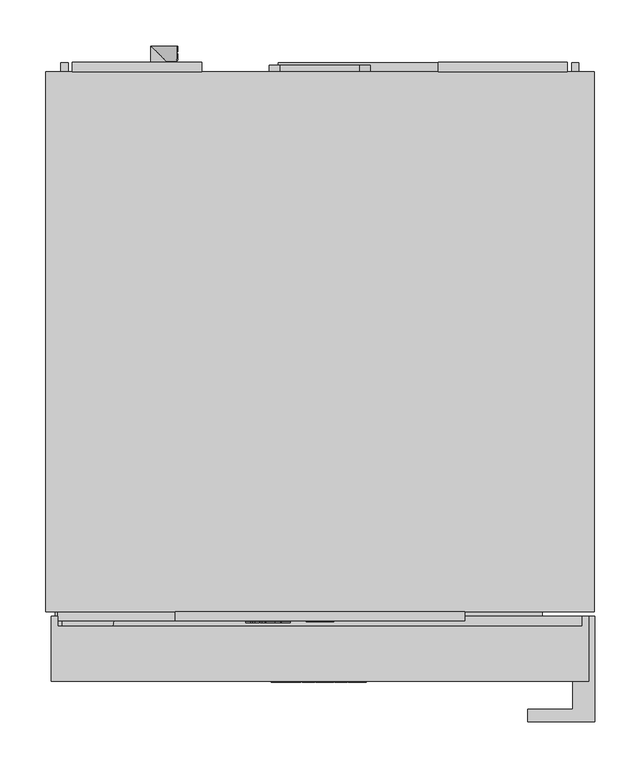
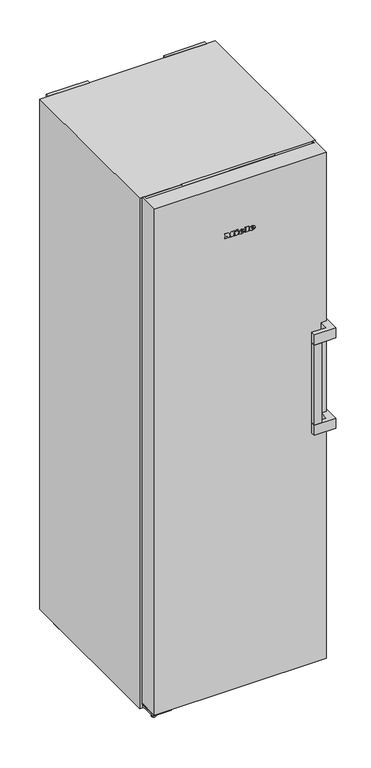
"""IFC4 building model written with IfcOpenShell, lengths in millimetres: proxy geometry, 12430770_AUS_FNS4782E_BST : 37478253_AUS_12430770_FNS4782E_BST."""

from ifc_helpers import new_model, si_unit, point, frame, frame_2d, origin, origin_with_axes, place, context, project, spatial, polyline, circle_curve, ellipse_curve, trimmed, segment, composite_curve, outline, extrude, faceted_brep, source, transform, mapped, element, save
from ifc_brep_helpers import plane_surface, cylinder_surface, revolved_surface, extruded_surface, advanced_brep


def specialty_equipment_5bcbbda8(model_context):
    return source(origin(), model_context, "Body", "SolidModel", [
        extrude(outline(polyline([(15.0, -609.5), (-15.0, -609.5), (-15.0, -606.5), (15.0, -606.5), (15.0, -609.5)])), frame((0.0, 0.0, 1812.0), z_axis=(0.0, 0.0, 1.0), x_axis=(1.0, 0.0, 0.0)), (0.0, 0.0, 1.0), 28.0),
        extrude(outline(polyline([(1845.5, 105.0), (1845.5, -105.0), (1806.5, -105.0), (1806.5, 105.0), (1845.5, 105.0)]), holes=[polyline([(1840.0, -15.0), (1840.0, 15.0), (1812.0, 15.0), (1812.0, -15.0), (1840.0, -15.0)])]), frame((0.0, -608.5, 0.0), z_axis=(0.0, 1.0, 0.0), x_axis=(0.0, 0.0, 1.0)), (0.0, 0.0, 1.0), 2.0),
        faceted_brep([(157.5, -598.5, 1802.0), (157.5, -608.5, 1802.0), (-157.5, -608.5, 1802.0), (-157.5, -598.5, 1802.0), (157.5, -598.5, 1850.0), (-157.5, -598.5, 1850.0), (-157.5, -608.5, 1850.0), (157.5, -608.5, 1850.0), (-105.0, -608.5, 1845.5), (105.0, -608.5, 1845.5), (105.0, -608.5, 1806.5), (-105.0, -608.5, 1806.5), (105.0, -606.5, 1845.5), (-105.0, -606.5, 1845.5), (-105.0, -606.5, 1806.5), (105.0, -606.5, 1806.5)], [[[0, 1, 2, 3]], [[4, 5, 6, 7]], [[0, 3, 5, 4]], [[3, 2, 6, 5]], [[2, 1, 7, 6], [8, 9, 10, 11]], [[1, 0, 4, 7]], [[12, 13, 14, 15]], [[13, 12, 9, 8]], [[14, 13, 8, 11]], [[15, 14, 11, 10]], [[12, 15, 10, 9]]]),
        advanced_brep(
        [(39.0804776, -675.5, 1668.7956125), (39.0804776, -675.5, 1670.5126125), (50.4534776, -675.5, 1670.5126125), (30.6654776, -675.5, 1670.5126125), (35.3404776, -675.5, 1664.7666125), (50.1644776, -675.5, 1668.7956125), (45.0304776, -675.5, 1668.7956125), (40.9844776, -675.5, 1666.8916125), (39.0804776, -675.5, 1672.6886125), (39.0804776, -675.5, 1674.5416125), (41.9874776, -675.5, 1674.5416125), (41.9874776, -675.5, 1672.6886125), (39.0804776, -674.5, 1668.7956125), (40.9844776, -674.5, 1666.8916125), (45.0304776, -674.5, 1668.7956125), (50.1644776, -674.5, 1668.7956125), (35.3404776, -674.5, 1664.7666125), (30.6654776, -674.5, 1670.5126125), (50.4534776, -674.5, 1670.5126125), (39.0804776, -674.5, 1670.5126125), (39.0804776, -674.5, 1672.6886125), (41.9874776, -674.5, 1672.6886125), (41.9874776, -674.5, 1674.5416125), (39.0804776, -674.5, 1674.5416125)],
        [
            (0, 1),
            (1, 2),
            (2, 3, ellipse_curve(frame((40.5594776, -675.5, 1670.5126125), z_axis=(0.0, -1.0, 0.0), x_axis=(-1.0, 0.0, 0.0)), 9.894, 8.177)),
            (3, 4, circle_curve(frame((37.2445704, -675.5, 1671.0906125), z_axis=(0.0, -1.0, 0.0), x_axis=(0.0, 0.0, -1.0)), 6.6044337)),
            (4, 5, circle_curve(frame((40.361414, -675.5, 1675.5786125), z_axis=(0.0, -1.0, 0.0), x_axis=(0.0, 0.0, -1.0)), 11.9209541)),
            (5, 6),
            (6, 7, circle_curve(frame((41.8154776, -675.5, 1670.3766125), z_axis=(0.0, 1.0, 0.0), x_axis=(0.0, 0.0, -1.0)), 3.5827065)),
            (7, 0, circle_curve(frame((40.9844776, -675.5, 1668.7956125), z_axis=(0.0, 1.0, 0.0), x_axis=(0.0, 0.0, -1.0)), 1.904)),
            (8, 9),
            (9, 10, circle_curve(frame((40.5339776, -675.5, 1674.5416125), z_axis=(0.0, 1.0, 0.0), x_axis=(0.0, 0.0, -1.0)), 1.4535)),
            (10, 11),
            (11, 8),
            (12, 13, circle_curve(frame((40.9844776, -674.5, 1668.7956125), z_axis=(0.0, -1.0, 0.0), x_axis=(0.0, 0.0, -1.0)), 1.904)),
            (13, 14, circle_curve(frame((41.8154776, -674.5, 1670.3766125), z_axis=(0.0, -1.0, 0.0), x_axis=(0.0, 0.0, -1.0)), 3.5827065)),
            (14, 15),
            (15, 16, circle_curve(frame((40.361414, -674.5, 1675.5786125), z_axis=(0.0, 1.0, 0.0), x_axis=(0.0, 0.0, -1.0)), 11.9209541)),
            (16, 17, circle_curve(frame((37.2445704, -674.5, 1671.0906125), z_axis=(0.0, 1.0, 0.0), x_axis=(0.0, 0.0, -1.0)), 6.6044337)),
            (17, 18, ellipse_curve(frame((40.5594776, -674.5, 1670.5126125), z_axis=(0.0, 1.0, 0.0), x_axis=(-1.0, 0.0, 0.0)), 9.894, 8.177)),
            (18, 19),
            (19, 12),
            (20, 21),
            (21, 22),
            (22, 23, circle_curve(frame((40.5339776, -674.5, 1674.5416125), z_axis=(0.0, -1.0, 0.0), x_axis=(0.0, 0.0, -1.0)), 1.4535)),
            (23, 20),
            (0, 12),
            (19, 1),
            (18, 2),
            (5, 15),
            (14, 6),
            (17, 3),
            (13, 7),
            (16, 4),
            (8, 20),
            (23, 9),
            (22, 10),
            (21, 11),
        ],
        [
            plane_surface(frame((39.0804776, -675.5, 1670.5126125), z_axis=(0.0, -1.0, 0.0), x_axis=(0.0, 0.0, 1.0))),
            plane_surface(frame((39.0804776, -674.5, 1670.5126125), z_axis=(0.0, 1.0, 0.0), x_axis=(0.0, 0.0, -1.0))),
            plane_surface(frame((39.0804776, -675.5, 1668.7956125), z_axis=(1.0, 0.0, 0.0), x_axis=(0.0, 1.0, 0.0))),
            plane_surface(frame((39.0804776, -675.5, 1670.5126125), z_axis=(0.0, 0.0, -1.0), x_axis=(0.0, 1.0, 0.0))),
            plane_surface(frame((50.1644776, -675.5, 1668.7956125), z_axis=(0.0, 0.0, 1.0), x_axis=(0.0, 1.0, 0.0))),
            extruded_surface(trimmed(ellipse_curve(frame((40.5594776, -673.5, 1670.5126125), z_axis=(0.0, -1.0, 0.0), x_axis=(-1.0, 0.0, 0.0)), 9.894, 8.177), [point((50.4534776, -673.5, 1670.5126125))], [point((30.6654776, -673.5, 1670.5126125))], True, "CARTESIAN"), (0.0, -1.0, 0.0), 1.0),
            revolved_surface(polyline([(41.8154776, -674.5, 1666.7939059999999), (41.8154776, -675.5, 1666.7939059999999)]), (41.8154776, -674.5, 1670.3766125), (0.0, 1.0, 0.0)),
            revolved_surface(polyline([(40.9844776, -674.5, 1666.8916125), (40.9844776, -675.5, 1666.8916125)]), (40.9844776, -674.5, 1668.7956125), (0.0, 1.0, 0.0)),
            cylinder_surface(frame((37.2445704, -674.5, 1671.0906125), z_axis=(0.0, -1.0, 0.0), x_axis=(0.0, 0.0, -1.0)), 6.6044337),
            cylinder_surface(frame((40.361414, -674.5, 1675.5786125), z_axis=(0.0, -1.0, 0.0), x_axis=(0.0, 0.0, -1.0)), 11.9209541),
            plane_surface(frame((39.0804776, -675.5, 1672.6886125), z_axis=(1.0, 0.0, 0.0), x_axis=(0.0, 1.0, 0.0))),
            revolved_surface(polyline([(40.5339776, -674.5, 1673.0881124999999), (40.5339776, -675.5, 1673.0881124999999)]), (40.5339776, -674.5, 1674.5416125), (0.0, 1.0, 0.0)),
            plane_surface(frame((41.9874776, -675.5, 1674.5416125), z_axis=(-1.0, 0.0, 0.0), x_axis=(0.0, 1.0, 0.0))),
            plane_surface(frame((41.9874776, -675.5, 1672.6886125), z_axis=(0.0, 0.0, 1.0), x_axis=(0.0, 1.0, 0.0))),
        ],
        [
            (0, [[1, 2, 3, 4, 5, 6, 7, 8], [9, 10, 11, 12]]),
            (1, [[13, 14, 15, 16, 17, 18, 19, 20], [21, 22, 23, 24]]),
            (2, [[-1, 25, -20, 26]]),
            (3, [[-2, -26, -19, 27]]),
            (4, [[-6, 28, -15, 29]]),
            (5, [[-3, -27, -18, 30]]),
            (6, [[-7, -29, -14, 31]]),
            (7, [[-8, -31, -13, -25]]),
            (8, [[-4, -30, -17, 32]]),
            (9, [[-5, -32, -16, -28]]),
            (10, [[-9, 33, -24, 34]]),
            (11, [[-10, -34, -23, 35]]),
            (12, [[-11, -35, -22, 36]]),
            (13, [[-12, -36, -21, -33]]),
        ],
    ),
        advanced_brep(
        [(3.6014776, -675.5, 1668.7956125), (3.6014776, -675.5, 1670.5126125), (14.9744776, -675.5, 1670.5126125), (-4.8135224, -675.5, 1670.5126125), (-0.1385224, -675.5, 1664.7666125), (14.6854776, -675.5, 1668.7956125), (9.5514776, -675.5, 1668.7956125), (5.5054776, -675.5, 1666.8916125), (3.6014776, -675.5, 1672.6886125), (3.6014776, -675.5, 1674.5416125), (6.5084776, -675.5, 1674.5416125), (6.5084776, -675.5, 1672.6886125), (3.6014776, -674.5, 1668.7956125), (5.5054776, -674.5, 1666.8916125), (9.5514776, -674.5, 1668.7956125), (14.6854776, -674.5, 1668.7956125), (-0.1385224, -674.5, 1664.7666125), (-4.8135224, -674.5, 1670.5126125), (14.9744776, -674.5, 1670.5126125), (3.6014776, -674.5, 1670.5126125), (3.6014776, -674.5, 1672.6886125), (6.5084776, -674.5, 1672.6886125), (6.5084776, -674.5, 1674.5416125), (3.6014776, -674.5, 1674.5416125)],
        [
            (0, 1),
            (1, 2),
            (2, 3, ellipse_curve(frame((5.0804776, -675.5, 1670.5126125), z_axis=(0.0, -1.0, 0.0), x_axis=(-1.0, 0.0, 0.0)), 9.894, 8.177)),
            (3, 4, circle_curve(frame((1.7655704, -675.5, 1671.0906125), z_axis=(0.0, -1.0, 0.0), x_axis=(0.0, 0.0, -1.0)), 6.6044337)),
            (4, 5, circle_curve(frame((4.882414, -675.5, 1675.5786125), z_axis=(0.0, -1.0, 0.0), x_axis=(0.0, 0.0, -1.0)), 11.9209541)),
            (5, 6),
            (6, 7, circle_curve(frame((6.3364776, -675.5, 1670.3766125), z_axis=(0.0, 1.0, 0.0), x_axis=(0.0, 0.0, -1.0)), 3.5827065)),
            (7, 0, circle_curve(frame((5.5054776, -675.5, 1668.7956125), z_axis=(0.0, 1.0, 0.0), x_axis=(0.0, 0.0, -1.0)), 1.904)),
            (8, 9),
            (9, 10, circle_curve(frame((5.0549776, -675.5, 1674.5416125), z_axis=(0.0, 1.0, 0.0), x_axis=(0.0, 0.0, -1.0)), 1.4535)),
            (10, 11),
            (11, 8),
            (12, 13, circle_curve(frame((5.5054776, -674.5, 1668.7956125), z_axis=(0.0, -1.0, 0.0), x_axis=(0.0, 0.0, -1.0)), 1.904)),
            (13, 14, circle_curve(frame((6.3364776, -674.5, 1670.3766125), z_axis=(0.0, -1.0, 0.0), x_axis=(0.0, 0.0, -1.0)), 3.5827065)),
            (14, 15),
            (15, 16, circle_curve(frame((4.882414, -674.5, 1675.5786125), z_axis=(0.0, 1.0, 0.0), x_axis=(0.0, 0.0, -1.0)), 11.9209541)),
            (16, 17, circle_curve(frame((1.7655704, -674.5, 1671.0906125), z_axis=(0.0, 1.0, 0.0), x_axis=(0.0, 0.0, -1.0)), 6.6044337)),
            (17, 18, ellipse_curve(frame((5.0804776, -674.5, 1670.5126125), z_axis=(0.0, 1.0, 0.0), x_axis=(-1.0, 0.0, 0.0)), 9.894, 8.177)),
            (18, 19),
            (19, 12),
            (20, 21),
            (21, 22),
            (22, 23, circle_curve(frame((5.0549776, -674.5, 1674.5416125), z_axis=(0.0, -1.0, 0.0), x_axis=(0.0, 0.0, -1.0)), 1.4535)),
            (23, 20),
            (0, 12),
            (19, 1),
            (18, 2),
            (5, 15),
            (14, 6),
            (17, 3),
            (13, 7),
            (16, 4),
            (8, 20),
            (23, 9),
            (22, 10),
            (21, 11),
        ],
        [
            plane_surface(frame((3.6014776, -675.5, 1670.5126125), z_axis=(0.0, -1.0, 0.0), x_axis=(0.0, 0.0, 1.0))),
            plane_surface(frame((3.6014776, -674.5, 1670.5126125), z_axis=(0.0, 1.0, 0.0), x_axis=(0.0, 0.0, -1.0))),
            plane_surface(frame((3.6014776, -675.5, 1668.7956125), z_axis=(1.0, 0.0, 0.0), x_axis=(0.0, 1.0, 0.0))),
            plane_surface(frame((3.6014776, -675.5, 1670.5126125), z_axis=(0.0, 0.0, -1.0), x_axis=(0.0, 1.0, 0.0))),
            plane_surface(frame((14.6854776, -675.5, 1668.7956125), z_axis=(0.0, 0.0, 1.0), x_axis=(0.0, 1.0, 0.0))),
            extruded_surface(trimmed(ellipse_curve(frame((5.0804776, -673.5, 1670.5126125), z_axis=(0.0, -1.0, 0.0), x_axis=(-1.0, 0.0, 0.0)), 9.894, 8.177), [point((14.9744776, -673.5, 1670.5126125))], [point((-4.8135224, -673.5, 1670.5126125))], True, "CARTESIAN"), (0.0, -1.0, 0.0), 1.0),
            revolved_surface(polyline([(6.3364776, -674.5, 1666.7939059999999), (6.3364776, -675.5, 1666.7939059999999)]), (6.3364776, -674.5, 1670.3766125), (0.0, 1.0, 0.0)),
            revolved_surface(polyline([(5.5054776, -674.5, 1666.8916125), (5.5054776, -675.5, 1666.8916125)]), (5.5054776, -674.5, 1668.7956125), (0.0, 1.0, 0.0)),
            cylinder_surface(frame((1.7655704, -674.5, 1671.0906125), z_axis=(0.0, -1.0, 0.0), x_axis=(0.0, 0.0, -1.0)), 6.6044337),
            cylinder_surface(frame((4.882414, -674.5, 1675.5786125), z_axis=(0.0, -1.0, 0.0), x_axis=(0.0, 0.0, -1.0)), 11.9209541),
            plane_surface(frame((3.6014776, -675.5, 1672.6886125), z_axis=(1.0, 0.0, 0.0), x_axis=(0.0, 1.0, 0.0))),
            revolved_surface(polyline([(5.0549776, -674.5, 1673.0881124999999), (5.0549776, -675.5, 1673.0881124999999)]), (5.0549776, -674.5, 1674.5416125), (0.0, 1.0, 0.0)),
            plane_surface(frame((6.5084776, -675.5, 1674.5416125), z_axis=(-1.0, 0.0, 0.0), x_axis=(0.0, 1.0, 0.0))),
            plane_surface(frame((6.5084776, -675.5, 1672.6886125), z_axis=(0.0, 0.0, 1.0), x_axis=(0.0, 1.0, 0.0))),
        ],
        [
            (0, [[1, 2, 3, 4, 5, 6, 7, 8], [9, 10, 11, 12]]),
            (1, [[13, 14, 15, 16, 17, 18, 19, 20], [21, 22, 23, 24]]),
            (2, [[-1, 25, -20, 26]]),
            (3, [[-2, -26, -19, 27]]),
            (4, [[-6, 28, -15, 29]]),
            (5, [[-3, -27, -18, 30]]),
            (6, [[-7, -29, -14, 31]]),
            (7, [[-8, -31, -13, -25]]),
            (8, [[-4, -30, -17, 32]]),
            (9, [[-5, -32, -16, -28]]),
            (10, [[-9, 33, -24, 34]]),
            (11, [[-10, -34, -23, 35]]),
            (12, [[-11, -35, -22, 36]]),
            (13, [[-12, -36, -21, -33]]),
        ],
    ),
        extrude(outline(polyline([(1680.7636125, -14.9795224), (1678.0096125, -13.6875224), (1680.6956125, -7.9245224), (1683.4496125, -9.1995224), (1680.7636125, -14.9795224)])), frame((0.0, -675.5, 0.0), z_axis=(0.0, 1.0, 0.0), x_axis=(0.0, 0.0, 1.0)), (0.0, 0.0, 1.0), 1.0),
        extrude(outline(polyline([(1677.6356125, -19.1785224), (1674.5926125, -19.1785224), (1674.5926125, -17.1555224), (1667.6226125, -17.1555224), (1667.6226125, -19.1785224), (1664.7666125, -19.1785224), (1664.7666125, -5.7655224), (1667.6226125, -5.7655224), (1667.6226125, -7.7375224), (1677.6356125, -7.7375224), (1677.6356125, -19.1785224)])), frame((0.0, -675.5, 0.0), z_axis=(0.0, 1.0, 0.0), x_axis=(0.0, 0.0, 1.0)), (0.0, 0.0, 1.0), 1.0),
        extrude(outline(polyline([(1678.9956125, 15.9264776), (1678.9956125, 17.9664776), (1667.6226125, 17.9664776), (1667.6226125, 15.9264776), (1664.7666125, 15.9264776), (1664.7666125, 29.7134776), (1667.6226125, 29.7134776), (1667.6226125, 27.6224776), (1681.7666125, 27.6224776), (1681.7666125, 15.9264776), (1678.9956125, 15.9264776)])), frame((0.0, -675.5, 0.0), z_axis=(0.0, 1.0, 0.0), x_axis=(0.0, 0.0, 1.0)), (0.0, 0.0, 1.0), 1.0),
        extrude(outline(polyline([(1678.9956125, -53.0595224), (1678.9956125, -51.0025224), (1667.6226125, -51.0025224), (1667.6226125, -53.0595224), (1664.7666125, -53.0595224), (1664.7666125, -45.5795224), (1667.6226125, -45.5795224), (1667.6226125, -47.6195224), (1674.7967372, -47.6195224), (1664.7666125, -40.0205224), (1675.2068348, -32.3875224), (1667.6226125, -32.3875224), (1667.6226125, -34.4785224), (1664.7666125, -34.4785224), (1664.7666125, -20.9125224), (1667.6226125, -20.9125224), (1667.6226125, -23.0715224), (1678.9956125, -23.0715224), (1678.9956125, -20.9125224), (1681.7666125, -20.9125224), (1681.7666125, -31.2655224), (1675.3916125, -36.2295224), (1681.7666125, -41.2105224), (1681.7666125, -53.0595224), (1678.9956125, -53.0595224)])), frame((0.0, -675.5, 0.0), z_axis=(0.0, 1.0, 0.0), x_axis=(0.0, 0.0, 1.0)), (0.0, 0.0, 1.0), 1.0),
        advanced_brep(
        [(-37.64, -610.5, 1828.896), (-37.64, -610.5, 1829.704), (-32.288, -610.5, 1829.704), (-41.6, -610.5, 1829.704), (-39.4, -610.5, 1827.0), (-32.424, -610.5, 1828.896), (-34.84, -610.5, 1828.896), (-36.744, -610.5, 1828.0), (-37.64, -610.5, 1830.728), (-37.64, -610.5, 1831.6), (-36.272, -610.5, 1831.6), (-36.272, -610.5, 1830.728), (-37.64, -609.5, 1828.896), (-36.744, -609.5, 1828.0), (-34.84, -609.5, 1828.896), (-32.424, -609.5, 1828.896), (-39.4, -609.5, 1827.0), (-41.6, -609.5, 1829.704), (-32.288, -609.5, 1829.704), (-37.64, -609.5, 1829.704), (-37.64, -609.5, 1830.728), (-36.272, -609.5, 1830.728), (-36.272, -609.5, 1831.6), (-37.64, -609.5, 1831.6)],
        [
            (0, 1),
            (1, 2),
            (2, 3, ellipse_curve(frame((-36.944, -610.5, 1829.704), z_axis=(0.0, -1.0, 0.0), x_axis=(-1.0, 0.0, 0.0)), 4.656, 3.848)),
            (3, 4, circle_curve(frame((-38.5039564, -610.5, 1829.976), z_axis=(0.0, -1.0, 0.0), x_axis=(0.0, 0.0, -1.0)), 3.1079688)),
            (4, 5, circle_curve(frame((-37.0372064, -610.5, 1832.088), z_axis=(0.0, -1.0, 0.0), x_axis=(0.0, 0.0, -1.0)), 5.6098607)),
            (5, 6),
            (6, 7, circle_curve(frame((-36.3529412, -610.5, 1829.64), z_axis=(0.0, 1.0, 0.0), x_axis=(0.0, 0.0, -1.0)), 1.6859795)),
            (7, 0, circle_curve(frame((-36.744, -610.5, 1828.896), z_axis=(0.0, 1.0, 0.0), x_axis=(0.0, 0.0, -1.0)), 0.896)),
            (8, 9),
            (9, 10, circle_curve(frame((-36.956, -610.5, 1831.6), z_axis=(0.0, 1.0, 0.0), x_axis=(0.0, 0.0, -1.0)), 0.684)),
            (10, 11),
            (11, 8),
            (12, 13, circle_curve(frame((-36.744, -609.5, 1828.896), z_axis=(0.0, -1.0, 0.0), x_axis=(0.0, 0.0, -1.0)), 0.896)),
            (13, 14, circle_curve(frame((-36.3529412, -609.5, 1829.64), z_axis=(0.0, -1.0, 0.0), x_axis=(0.0, 0.0, -1.0)), 1.6859795)),
            (14, 15),
            (15, 16, circle_curve(frame((-37.0372064, -609.5, 1832.088), z_axis=(0.0, 1.0, 0.0), x_axis=(0.0, 0.0, -1.0)), 5.6098607)),
            (16, 17, circle_curve(frame((-38.5039564, -609.5, 1829.976), z_axis=(0.0, 1.0, 0.0), x_axis=(0.0, 0.0, -1.0)), 3.1079688)),
            (17, 18, ellipse_curve(frame((-36.944, -609.5, 1829.704), z_axis=(0.0, 1.0, 0.0), x_axis=(-1.0, 0.0, 0.0)), 4.656, 3.848)),
            (18, 19),
            (19, 12),
            (20, 21),
            (21, 22),
            (22, 23, circle_curve(frame((-36.956, -609.5, 1831.6), z_axis=(0.0, -1.0, 0.0), x_axis=(0.0, 0.0, -1.0)), 0.684)),
            (23, 20),
            (0, 12),
            (19, 1),
            (18, 2),
            (5, 15),
            (14, 6),
            (17, 3),
            (13, 7),
            (16, 4),
            (8, 20),
            (23, 9),
            (22, 10),
            (21, 11),
        ],
        [
            plane_surface(frame((-37.64, -610.5, 1829.704), z_axis=(0.0, -1.0, 0.0), x_axis=(0.0, 0.0, 1.0))),
            plane_surface(frame((-37.64, -609.5, 1829.704), z_axis=(0.0, 1.0, 0.0), x_axis=(0.0, 0.0, -1.0))),
            plane_surface(frame((-37.64, -610.5, 1828.896), z_axis=(1.0, 0.0, 0.0), x_axis=(0.0, 1.0, 0.0))),
            plane_surface(frame((-37.64, -610.5, 1829.704), z_axis=(0.0, 0.0, -1.0), x_axis=(0.0, 1.0, 0.0))),
            plane_surface(frame((-32.424, -610.5, 1828.896), z_axis=(0.0, 0.0, 1.0), x_axis=(0.0, 1.0, 0.0))),
            extruded_surface(trimmed(ellipse_curve(frame((-36.944, -608.5, 1829.704), z_axis=(0.0, -1.0, 0.0), x_axis=(-1.0, 0.0, 0.0)), 4.656, 3.848), [point((-32.288, -608.5, 1829.704))], [point((-41.6, -608.5, 1829.704))], True, "CARTESIAN"), (0.0, -1.0, 0.0), 1.0),
            revolved_surface(polyline([(-36.3529412, -609.5, 1827.9540205), (-36.3529412, -610.5, 1827.9540205)]), (-36.3529412, -609.5, 1829.64), (0.0, 1.0, 0.0)),
            revolved_surface(polyline([(-36.744, -609.5, 1828.0), (-36.744, -610.5, 1828.0)]), (-36.744, -609.5, 1828.896), (0.0, 1.0, 0.0)),
            cylinder_surface(frame((-38.5039564, -609.5, 1829.976), z_axis=(0.0, -1.0, 0.0), x_axis=(0.0, 0.0, -1.0)), 3.1079688),
            cylinder_surface(frame((-37.0372064, -609.5, 1832.088), z_axis=(0.0, -1.0, 0.0), x_axis=(0.0, 0.0, -1.0)), 5.6098607),
            plane_surface(frame((-37.64, -610.5, 1830.728), z_axis=(1.0, 0.0, 0.0), x_axis=(0.0, 1.0, 0.0))),
            revolved_surface(polyline([(-36.956, -609.5, 1830.916), (-36.956, -610.5, 1830.916)]), (-36.956, -609.5, 1831.6), (0.0, 1.0, 0.0)),
            plane_surface(frame((-36.272, -610.5, 1831.6), z_axis=(-1.0, 0.0, 0.0), x_axis=(0.0, 1.0, 0.0))),
            plane_surface(frame((-36.272, -610.5, 1830.728), z_axis=(0.0, 0.0, 1.0), x_axis=(0.0, 1.0, 0.0))),
        ],
        [
            (0, [[1, 2, 3, 4, 5, 6, 7, 8], [9, 10, 11, 12]]),
            (1, [[13, 14, 15, 16, 17, 18, 19, 20], [21, 22, 23, 24]]),
            (2, [[-1, 25, -20, 26]]),
            (3, [[-2, -26, -19, 27]]),
            (4, [[-6, 28, -15, 29]]),
            (5, [[-3, -27, -18, 30]]),
            (6, [[-7, -29, -14, 31]]),
            (7, [[-8, -31, -13, -25]]),
            (8, [[-4, -30, -17, 32]]),
            (9, [[-5, -32, -16, -28]]),
            (10, [[-9, 33, -24, 34]]),
            (11, [[-10, -34, -23, 35]]),
            (12, [[-11, -35, -22, 36]]),
            (13, [[-12, -36, -21, -33]]),
        ],
    ),
        advanced_brep(
        [(-54.336, -610.5, 1828.896), (-54.336, -610.5, 1829.704), (-48.984, -610.5, 1829.704), (-58.296, -610.5, 1829.704), (-56.096, -610.5, 1827.0), (-49.12, -610.5, 1828.896), (-51.536, -610.5, 1828.896), (-53.44, -610.5, 1828.0), (-54.336, -610.5, 1830.728), (-54.336, -610.5, 1831.6), (-52.968, -610.5, 1831.6), (-52.968, -610.5, 1830.728), (-54.336, -609.5, 1828.896), (-53.44, -609.5, 1828.0), (-51.536, -609.5, 1828.896), (-49.12, -609.5, 1828.896), (-56.096, -609.5, 1827.0), (-58.296, -609.5, 1829.704), (-48.984, -609.5, 1829.704), (-54.336, -609.5, 1829.704), (-54.336, -609.5, 1830.728), (-52.968, -609.5, 1830.728), (-52.968, -609.5, 1831.6), (-54.336, -609.5, 1831.6)],
        [
            (0, 1),
            (1, 2),
            (2, 3, ellipse_curve(frame((-53.64, -610.5, 1829.704), z_axis=(0.0, -1.0, 0.0), x_axis=(-1.0, 0.0, 0.0)), 4.656, 3.848)),
            (3, 4, circle_curve(frame((-55.1999564, -610.5, 1829.976), z_axis=(0.0, -1.0, 0.0), x_axis=(0.0, 0.0, -1.0)), 3.1079688)),
            (4, 5, circle_curve(frame((-53.7332064, -610.5, 1832.088), z_axis=(0.0, -1.0, 0.0), x_axis=(0.0, 0.0, -1.0)), 5.6098607)),
            (5, 6),
            (6, 7, circle_curve(frame((-53.0489412, -610.5, 1829.64), z_axis=(0.0, 1.0, 0.0), x_axis=(0.0, 0.0, -1.0)), 1.6859795)),
            (7, 0, circle_curve(frame((-53.44, -610.5, 1828.896), z_axis=(0.0, 1.0, 0.0), x_axis=(0.0, 0.0, -1.0)), 0.896)),
            (8, 9),
            (9, 10, circle_curve(frame((-53.652, -610.5, 1831.6), z_axis=(0.0, 1.0, 0.0), x_axis=(0.0, 0.0, -1.0)), 0.684)),
            (10, 11),
            (11, 8),
            (12, 13, circle_curve(frame((-53.44, -609.5, 1828.896), z_axis=(0.0, -1.0, 0.0), x_axis=(0.0, 0.0, -1.0)), 0.896)),
            (13, 14, circle_curve(frame((-53.0489412, -609.5, 1829.64), z_axis=(0.0, -1.0, 0.0), x_axis=(0.0, 0.0, -1.0)), 1.6859795)),
            (14, 15),
            (15, 16, circle_curve(frame((-53.7332064, -609.5, 1832.088), z_axis=(0.0, 1.0, 0.0), x_axis=(0.0, 0.0, -1.0)), 5.6098607)),
            (16, 17, circle_curve(frame((-55.1999564, -609.5, 1829.976), z_axis=(0.0, 1.0, 0.0), x_axis=(0.0, 0.0, -1.0)), 3.1079688)),
            (17, 18, ellipse_curve(frame((-53.64, -609.5, 1829.704), z_axis=(0.0, 1.0, 0.0), x_axis=(-1.0, 0.0, 0.0)), 4.656, 3.848)),
            (18, 19),
            (19, 12),
            (20, 21),
            (21, 22),
            (22, 23, circle_curve(frame((-53.652, -609.5, 1831.6), z_axis=(0.0, -1.0, 0.0), x_axis=(0.0, 0.0, -1.0)), 0.684)),
            (23, 20),
            (0, 12),
            (19, 1),
            (18, 2),
            (5, 15),
            (14, 6),
            (17, 3),
            (13, 7),
            (16, 4),
            (8, 20),
            (23, 9),
            (22, 10),
            (21, 11),
        ],
        [
            plane_surface(frame((-54.336, -610.5, 1829.704), z_axis=(0.0, -1.0, 0.0), x_axis=(0.0, 0.0, 1.0))),
            plane_surface(frame((-54.336, -609.5, 1829.704), z_axis=(0.0, 1.0, 0.0), x_axis=(0.0, 0.0, -1.0))),
            plane_surface(frame((-54.336, -610.5, 1828.896), z_axis=(1.0, 0.0, 0.0), x_axis=(0.0, 1.0, 0.0))),
            plane_surface(frame((-54.336, -610.5, 1829.704), z_axis=(0.0, 0.0, -1.0), x_axis=(0.0, 1.0, 0.0))),
            plane_surface(frame((-49.12, -610.5, 1828.896), z_axis=(0.0, 0.0, 1.0), x_axis=(0.0, 1.0, 0.0))),
            extruded_surface(trimmed(ellipse_curve(frame((-53.64, -608.5, 1829.704), z_axis=(0.0, -1.0, 0.0), x_axis=(-1.0, 0.0, 0.0)), 4.656, 3.848), [point((-48.984, -608.5, 1829.704))], [point((-58.296, -608.5, 1829.704))], True, "CARTESIAN"), (0.0, -1.0, 0.0), 1.0),
            revolved_surface(polyline([(-53.0489412, -609.5, 1827.9540205), (-53.0489412, -610.5, 1827.9540205)]), (-53.0489412, -609.5, 1829.64), (0.0, 1.0, 0.0)),
            revolved_surface(polyline([(-53.44, -609.5, 1828.0), (-53.44, -610.5, 1828.0)]), (-53.44, -609.5, 1828.896), (0.0, 1.0, 0.0)),
            cylinder_surface(frame((-55.1999564, -609.5, 1829.976), z_axis=(0.0, -1.0, 0.0), x_axis=(0.0, 0.0, -1.0)), 3.1079688),
            cylinder_surface(frame((-53.7332064, -609.5, 1832.088), z_axis=(0.0, -1.0, 0.0), x_axis=(0.0, 0.0, -1.0)), 5.6098607),
            plane_surface(frame((-54.336, -610.5, 1830.728), z_axis=(1.0, 0.0, 0.0), x_axis=(0.0, 1.0, 0.0))),
            revolved_surface(polyline([(-53.652, -609.5, 1830.916), (-53.652, -610.5, 1830.916)]), (-53.652, -609.5, 1831.6), (0.0, 1.0, 0.0)),
            plane_surface(frame((-52.968, -610.5, 1831.6), z_axis=(-1.0, 0.0, 0.0), x_axis=(0.0, 1.0, 0.0))),
            plane_surface(frame((-52.968, -610.5, 1830.728), z_axis=(0.0, 0.0, 1.0), x_axis=(0.0, 1.0, 0.0))),
        ],
        [
            (0, [[1, 2, 3, 4, 5, 6, 7, 8], [9, 10, 11, 12]]),
            (1, [[13, 14, 15, 16, 17, 18, 19, 20], [21, 22, 23, 24]]),
            (2, [[-1, 25, -20, 26]]),
            (3, [[-2, -26, -19, 27]]),
            (4, [[-6, 28, -15, 29]]),
            (5, [[-3, -27, -18, 30]]),
            (6, [[-7, -29, -14, 31]]),
            (7, [[-8, -31, -13, -25]]),
            (8, [[-4, -30, -17, 32]]),
            (9, [[-5, -32, -16, -28]]),
            (10, [[-9, 33, -24, 34]]),
            (11, [[-10, -34, -23, 35]]),
            (12, [[-11, -35, -22, 36]]),
            (13, [[-12, -36, -21, -33]]),
        ],
    ),
        extrude(outline(polyline([(1834.528, -63.08), (1833.232, -62.472), (1834.496, -59.76), (1835.792, -60.36), (1834.528, -63.08)])), frame((0.0, -610.5, 0.0), z_axis=(0.0, 1.0, 0.0), x_axis=(0.0, 0.0, 1.0)), (0.0, 0.0, 1.0), 1.0),
        extrude(outline(polyline([(1833.056, -65.056), (1831.624, -65.056), (1831.624, -64.104), (1828.344, -64.104), (1828.344, -65.056), (1827.0, -65.056), (1827.0, -58.744), (1828.344, -58.744), (1828.344, -59.672), (1833.056, -59.672), (1833.056, -65.056)])), frame((0.0, -610.5, 0.0), z_axis=(0.0, 1.0, 0.0), x_axis=(0.0, 0.0, 1.0)), (0.0, 0.0, 1.0), 1.0),
        extrude(outline(polyline([(1833.696, -48.536), (1833.696, -47.576), (1828.344, -47.576), (1828.344, -48.536), (1827.0, -48.536), (1827.0, -42.048), (1828.344, -42.048), (1828.344, -43.032), (1835.0, -43.032), (1835.0, -48.536), (1833.696, -48.536)])), frame((0.0, -610.5, 0.0), z_axis=(0.0, 1.0, 0.0), x_axis=(0.0, 0.0, 1.0)), (0.0, 0.0, 1.0), 1.0),
        extrude(outline(polyline([(1833.696, -81.0), (1833.696, -80.032), (1828.344, -80.032), (1828.344, -81.0), (1827.0, -81.0), (1827.0, -77.48), (1828.344, -77.48), (1828.344, -78.44), (1831.7471247, -78.44), (1827.0, -74.864), (1831.8152223, -71.272), (1828.344, -71.272), (1828.344, -72.256), (1827.0, -72.256), (1827.0, -65.872), (1828.344, -65.872), (1828.344, -66.888), (1833.696, -66.888), (1833.696, -65.872), (1835.0, -65.872), (1835.0, -70.744), (1832.0, -73.08), (1835.0, -75.424), (1835.0, -81.0), (1833.696, -81.0)])), frame((0.0, -610.5, 0.0), z_axis=(0.0, 1.0, 0.0), x_axis=(0.0, 0.0, 1.0)), (0.0, 0.0, 1.0), 1.0),
        extrude(outline(polyline([(-42.8527823, 0.0), (-48.1304417, 3.2708192), (-29.8908031, 3.2708192), (-34.9274229, 0.0), (-42.8527823, 0.0)])), frame((238.5469678, 0.0, 0.0), z_axis=(1.0, 0.0, 0.0), x_axis=(0.0, 1.0, 0.0)), (0.0, 0.0, 1.0), 15.1632647),
        extrude(outline(polyline([(-42.8527823, 0.0), (-48.1304417, 3.2708192), (-29.8908031, 3.2708192), (-34.9274229, 0.0), (-42.8527823, 0.0)])), frame((-253.7102325, 0.0, 0.0), z_axis=(1.0, 0.0, 0.0), x_axis=(0.0, 1.0, 0.0)), (0.0, 0.0, 1.0), 15.1632647),
        extrude(outline(polyline([(2.1227397, 65.0), (2.1227397, 75.045631), (9.343037, 75.045631), (9.343037, 73.7899271), (3.3784436, 73.7899271), (3.3784436, 70.8076304), (9.029111, 70.8076304), (9.029111, 69.5519266), (3.3784436, 69.5519266), (3.3784436, 66.2557039), (9.5, 66.2557039), (9.5, 65.0), (2.1227397, 65.0)])), frame((-156.0615355, 0.0, 0.0), z_axis=(1.0, 0.0, 0.0), x_axis=(0.0, 1.0, 0.0)), (0.0, 0.0, 1.0), 1.0),
        extrude(outline(polyline([(11.3835558, 65.0), (11.3835558, 75.045631), (12.6392597, 75.045631), (12.6392597, 66.2557039), (17.6620752, 66.2557039), (17.6620752, 65.0), (11.3835558, 65.0)])), frame((-156.0615355, 0.0, 0.0), z_axis=(1.0, 0.0, 0.0), x_axis=(0.0, 1.0, 0.0)), (0.0, 0.0, 1.0), 1.0),
        advanced_brep(
        [(-168.0615355, -10.5, 70.0), (-184.0615355, -10.5, 70.0), (-168.0615355, 1.5, 70.0), (-184.0615355, 17.5, 70.0), (-156.0615355, 1.5, 70.0), (-156.0615355, 17.5, 70.0)],
        [
            (0, 1, circle_curve(frame((-176.0615355, -10.5, 70.0), z_axis=(0.0, -1.0, 0.0), x_axis=(-1.0, 0.0, 0.0)), 8.0)),
            (1, 0, circle_curve(frame((-176.0615355, -10.5, 70.0), z_axis=(0.0, -1.0, 0.0), x_axis=(-1.0, 0.0, 0.0)), 8.0)),
            (0, 2),
            (2, 3, ellipse_curve(frame((-176.0615355, 9.5, 70.0), z_axis=(-0.7071067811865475, -0.7071067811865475, 0.0), x_axis=(0.7071067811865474, -0.7071067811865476, 0.0)), 11.3137085, 8.0)),
            (3, 1),
            (3, 2, ellipse_curve(frame((-176.0615355, 9.5, 70.0), z_axis=(-0.7071067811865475, -0.7071067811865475, 0.0), x_axis=(0.7071067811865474, -0.7071067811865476, 0.0)), 11.3137085, 8.0)),
            (4, 5, circle_curve(frame((-156.0615355, 9.5, 70.0), z_axis=(1.0, 0.0, 0.0), x_axis=(0.0, 1.0, 0.0)), 8.0)),
            (5, 4, circle_curve(frame((-156.0615355, 9.5, 70.0), z_axis=(1.0, 0.0, 0.0), x_axis=(0.0, 1.0, 0.0)), 8.0)),
            (2, 4),
            (5, 3),
        ],
        [
            plane_surface(frame((-176.0615355, -10.5, 0.0), z_axis=(0.0, -1.0, 0.0), x_axis=(0.0, 0.0, 1.0))),
            cylinder_surface(frame((-176.0615355, -10.5, 70.0), z_axis=(0.0, -1.0, 0.0), x_axis=(-1.0, 0.0, 0.0)), 8.0),
            plane_surface(frame((-156.0615355, 9.5, 0.0), z_axis=(1.0, 0.0, 0.0), x_axis=(0.0, 0.0, 1.0))),
            cylinder_surface(frame((-176.0615355, 9.5, 70.0), z_axis=(-1.0, 0.0, 0.0), x_axis=(0.0, 1.0, 0.0)), 8.0),
        ],
        [
            (0, [[1, 2]]),
            (1, [[-1, 3, 4, 5]]),
            (1, [[-2, -5, 6, -3]]),
            (2, [[7, 8]]),
            (3, [[-4, 9, -8, 10]]),
            (3, [[-6, -10, -7, -9]]),
        ],
    ),
        extrude(outline(polyline([(-118.9841834, 15.0), (-62.9841834, 15.0), (-75.5706779, 0.0), (-106.3976889, 0.0), (-118.9841834, 15.0)])), frame((-288.5, 0.0, 0.0), z_axis=(1.0, 0.0, 0.0), x_axis=(0.0, 1.0, 0.0)), (0.0, 0.0, 1.0), 16.0),
        extrude(outline(polyline([(-118.9841834, 15.0), (-62.9841834, 15.0), (-75.5706779, 0.0), (-106.3976889, 0.0), (-118.9841834, 15.0)])), frame((272.5, 0.0, 0.0), z_axis=(1.0, 0.0, 0.0), x_axis=(0.0, 1.0, 0.0)), (0.0, 0.0, 1.0), 16.0),
        extrude(outline(polyline([(281.8051758, -10.5), (274.2947998, -10.5), (274.2947998, -0.5), (281.8051758, -0.5), (281.8051758, -10.5)])), frame((0.0, 0.0, 239.4947815), z_axis=(0.0, 0.0, 1.0), x_axis=(1.0, 0.0, 0.0)), (0.0, 0.0, 1.0), 18.4103699),
        extrude(outline(polyline([(-274.0827332, -10.5), (-282.1051331, -10.5), (-282.1051331, -0.5), (-274.0827332, -0.5), (-274.0827332, -10.5)])), frame((0.0, 0.0, 239.4947815), z_axis=(0.0, 0.0, 1.0), x_axis=(1.0, 0.0, 0.0)), (0.0, 0.0, 1.0), 18.3224792),
        extrude(outline(polyline([(190.0, 177.5), (133.0, 177.5), (133.0, -45.5), (64.0, -45.5), (64.0, 258.5), (190.0, 258.5), (190.0, 177.5)])), frame((0.0, -10.5, 0.0), z_axis=(0.0, 1.0, 0.0), x_axis=(0.0, 0.0, 1.0)), (0.0, 0.0, 1.0), 10.0),
        extrude(outline(polyline([(269.5372046, -10.5), (129.0, -10.5), (129.0, 0.0), (269.5372046, 0.0), (269.5372046, -10.5)])), frame((0.0, 0.0, 1826.0), z_axis=(0.0, 0.0, 1.0), x_axis=(1.0, 0.0, 0.0)), (0.0, 0.0, 1.0), 24.0),
        extrude(outline(polyline([(-129.0, -10.5), (-269.5372046, -10.5), (-269.5372046, 0.0), (-129.0, 0.0), (-129.0, -10.5)])), frame((0.0, 0.0, 1826.0), z_axis=(0.0, 0.0, 1.0), x_axis=(1.0, 0.0, 0.0)), (0.0, 0.0, 1.0), 24.0),
        extrude(outline(polyline([(64.0, -159.5), (-64.0, -159.5), (-64.0, -71.5), (64.0, -71.5), (64.0, -159.5)])), frame((0.0, 0.0, 1636.0), z_axis=(0.0, 0.0, 1.0), x_axis=(1.0, 0.0, 0.0)), (0.0, 0.0, 1.0), 177.6535004),
        extrude(outline(polyline([(55.0, -521.5), (55.0, -575.5), (-55.0, -575.5), (-55.0, -521.5), (55.0, -521.5)])), frame((0.0, 0.0, 1759.0), z_axis=(0.0, 0.0, 1.0), x_axis=(1.0, 0.0, 0.0)), (0.0, 0.0, 1.0), 1.0),
        extrude(outline(composite_curve([segment(trimmed(circle_curve(frame_2d((-248.75, -584.5)), 10.0), [point((-258.75, -584.5))], [point((-238.75, -584.5))], False, "CARTESIAN"), True, "CONTINUOUS"), segment(trimmed(circle_curve(frame_2d((-248.75, -584.5)), 10.0), [point((-238.75, -584.5))], [point((-258.75, -584.5))], False, "CARTESIAN"), True, "CONTINUOUS")], self_intersect=False)), origin_with_axes(), (0.0, 0.0, 1.0), 15.0),
        extrude(outline(composite_curve([segment(trimmed(circle_curve(frame_2d((248.75, -584.4761218)), 10.0), [point((238.75, -584.4761218))], [point((258.75, -584.4761218))], False, "CARTESIAN"), True, "CONTINUOUS"), segment(trimmed(circle_curve(frame_2d((248.75, -584.4761218)), 10.0), [point((258.75, -584.4761218))], [point((238.75, -584.4761218))], False, "CARTESIAN"), True, "CONTINUOUS")], self_intersect=False)), origin_with_axes(), (0.0, 0.0, 1.0), 15.0),
        extrude(outline(polyline([(240.0, -290.5), (-240.0, -290.5), (-240.0, -71.5), (240.0, -71.5), (240.0, -290.5)])), frame((0.0, 0.0, 129.0), z_axis=(0.0, 0.0, 1.0), x_axis=(1.0, 0.0, 0.0)), (0.0, 0.0, 1.0), 190.0),
        extrude(outline(composite_curve([segment(trimmed(circle_curve(frame_2d((1162.0, -43.0)), 12.0), [point((1174.0, -43.0))], [point((1162.0, -55.0))], False, "CARTESIAN"), True, "CONTINUOUS"), segment(polyline([(1162.0, -55.0), (1138.0, -55.0)]), True, "CONTINUOUS"), segment(trimmed(circle_curve(frame_2d((1138.0, -43.0)), 12.0), [point((1138.0, -55.0))], [point((1126.0, -43.0))], False, "CARTESIAN"), True, "CONTINUOUS"), segment(polyline([(1126.0, -43.0), (1126.0, 43.0)]), True, "CONTINUOUS"), segment(trimmed(circle_curve(frame_2d((1138.0, 43.0)), 12.0), [point((1126.0, 43.0))], [point((1138.0, 55.0))], False, "CARTESIAN"), True, "CONTINUOUS"), segment(polyline([(1138.0, 55.0), (1162.0, 55.0)]), True, "CONTINUOUS"), segment(trimmed(circle_curve(frame_2d((1162.0, 43.0)), 12.0), [point((1162.0, 55.0))], [point((1174.0, 43.0))], False, "CARTESIAN"), True, "CONTINUOUS"), segment(polyline([(1174.0, 43.0), (1174.0, -43.0)]), True, "CONTINUOUS")], self_intersect=False)), frame((0.0, -10.5, 0.0), z_axis=(0.0, 1.0, 0.0), x_axis=(0.0, 0.0, 1.0)), (0.0, 0.0, 1.0), 7.0),
        extrude(outline(polyline([(272.5, -28.6436023), (272.5, -529.6387407), (-272.5, -529.6387407), (-272.5, -28.6436023), (272.5, -28.6436023)])), frame((0.0, 0.0, 3.2708192), z_axis=(0.0, 0.0, 1.0), x_axis=(1.0, 0.0, 0.0)), (0.0, 0.0, 1.0), 11.7291808),
        faceted_brep([(298.5, -10.5, 1850.0), (-298.5, -10.5, 1850.0), (-298.5, -598.5, 1850.0), (298.5, -598.5, 1850.0), (298.5, -10.5, 15.0), (298.5, -598.5, 15.0), (-298.5, -598.5, 15.0), (-298.5, -10.5, 15.0), (-240.0, -598.5, 1760.0), (240.0, -598.5, 1760.0), (240.0, -598.5, 129.0), (-240.0, -598.5, 129.0), (-240.0, -468.5, 1760.0), (240.0, -468.5, 1760.0), (240.0, -71.5, 129.0), (-240.0, -71.5, 129.0), (240.0, -71.5, 1813.6535004), (-240.0, -71.5, 1813.6535004), (-240.0, -468.5, 1813.6535004), (240.0, -468.5, 1813.6535004)], [[[0, 1, 2, 3]], [[4, 5, 6, 7]], [[1, 0, 4, 7]], [[2, 1, 7, 6]], [[3, 2, 6, 5], [8, 9, 10, 11]], [[0, 3, 5, 4]], [[9, 8, 12, 13]], [[14, 15, 11, 10]], [[15, 14, 16, 17]], [[15, 17, 18, 12, 8, 11]], [[16, 14, 10, 9, 13, 19]], [[19, 18, 17, 16]], [[18, 19, 13, 12]]]),
        extrude(outline(composite_curve([segment(trimmed(circle_curve(frame_2d((-276.9539666, -644.7854989)), 7.0), [point((-269.9539666, -644.7854989))], [point((-283.9539666, -644.7854989))], False, "CARTESIAN"), True, "CONTINUOUS"), segment(trimmed(circle_curve(frame_2d((-276.9539666, -644.7854989)), 7.0), [point((-283.9539666, -644.7854989))], [point((-269.9539666, -644.7854989))], False, "CARTESIAN"), True, "CONTINUOUS")], self_intersect=False)), frame((0.0, 0.0, 10.0), z_axis=(0.0, 0.0, 1.0), x_axis=(1.0, 0.0, 0.0)), (0.0, 0.0, 1.0), 11.0),
        extrude(outline(polyline([(-227.8680756, -660.5), (-291.8779467, -660.5), (-291.8779467, -603.5), (-227.8680756, -603.5), (-227.8680756, -660.5)])), frame((0.0, 0.0, 31.5014777), z_axis=(0.0, 0.0, 1.0), x_axis=(1.0, 0.0, 0.0)), (0.0, 0.0, 1.0), 4.4985223),
        extrude(outline(composite_curve([segment(trimmed(circle_curve(frame_2d((-274.5, -642.5)), 10.0), [point((-264.5, -642.5))], [point((-284.5, -642.5))], False, "CARTESIAN"), True, "CONTINUOUS"), segment(trimmed(circle_curve(frame_2d((-274.5, -642.5)), 10.0), [point((-284.5, -642.5))], [point((-264.5, -642.5))], False, "CARTESIAN"), True, "CONTINUOUS")], self_intersect=False)), frame((0.0, 0.0, 27.5), z_axis=(0.0, 0.0, 1.0), x_axis=(1.0, 0.0, 0.0)), (0.0, 0.0, 1.0), 4.5),
        extrude(outline(polyline([(242.0, -603.5), (-242.0, -603.5), (-242.0, -598.5), (242.0, -598.5), (242.0, -603.5)])), frame((0.0, 0.0, 128.0014777), z_axis=(0.0, 0.0, 1.0), x_axis=(1.0, 0.0, 0.0)), (0.0, 0.0, 1.0), 1639.0),
        extrude(outline(polyline([(299.5, -718.5), (226.5, -718.5), (226.5, -704.5), (275.5, -704.5), (275.5, -674.5), (292.5, -674.5), (292.5, -603.5), (299.5, -603.5), (299.5, -718.5)])), frame((0.0, 0.0, 886.0), z_axis=(0.0, 0.0, 1.0), x_axis=(1.0, 0.0, 0.0)), (0.0, 0.0, 1.0), 37.0),
        extrude(outline(polyline([(299.5, -718.5), (226.5, -718.5), (226.5, -704.5), (275.5, -704.5), (275.5, -674.5), (292.5, -674.5), (292.5, -603.5), (299.5, -603.5), (299.5, -718.5)])), frame((0.0, 0.0, 1211.0443098), z_axis=(0.0, 0.0, 1.0), x_axis=(1.0, 0.0, 0.0)), (0.0, 0.0, 1.0), 37.0),
        extrude(outline(polyline([(252.5, -718.5), (226.5, -718.5), (226.5, -704.5), (252.5, -704.5), (252.5, -718.5)])), frame((0.0, 0.0, 923.0), z_axis=(0.0, 0.0, 1.0), x_axis=(1.0, 0.0, 0.0)), (0.0, 0.0, 1.0), 288.0443098),
        extrude(outline(polyline([(-233.3907627, -657.6644264), (-282.5, -657.6644264), (-280.684623, -608.5), (-224.7217479, -608.5), (-233.3907627, -657.6644264)])), frame((0.0, 0.0, 1817.6745089), z_axis=(0.0, 0.0, 1.0), x_axis=(1.0, 0.0, 0.0)), (0.0, 0.0, 1.0), 23.7898602),
        extrude(outline(polyline([(-157.5, -608.5), (-285.5, -608.5), (-285.5, -598.5), (-157.5, -598.5), (-157.5, -608.5)])), frame((0.0, 0.0, 1800.5014777), z_axis=(0.0, 0.0, 1.0), x_axis=(1.0, 0.0, 0.0)), (0.0, 0.0, 1.0), 48.0),
        extrude(outline(polyline([(-598.5, 21.0), (-660.5, 21.0), (-660.5, 27.0014777), (-603.5, 27.0014777), (-603.5, 69.0014777), (-598.5, 69.0014777), (-598.5, 21.0)])), frame((-288.5, 0.0, 0.0), z_axis=(1.0, 0.0, 0.0), x_axis=(0.0, 1.0, 0.0)), (0.0, 0.0, 1.0), 62.0),
        advanced_brep(
        [(292.5, -674.5, 1854.0), (-292.5, -674.5, 1854.0), (-292.5, -674.5, 36.0), (292.5, -674.5, 36.0), (292.5, -603.5, 1854.0), (292.5, -603.5, 36.0), (222.5, -603.5, 36.0), (222.5, -603.5, 66.0), (-222.5, -603.5, 66.0), (-222.5, -603.5, 36.0), (-292.5, -603.5, 36.0), (-292.5, -603.5, 1854.0), (-285.5, -603.5, 1854.0), (-285.5, -603.5, 1848.5014777), (-287.5, -603.5, 1848.5014777), (-287.5, -603.5, 1797.0), (285.5, -603.5, 1797.0), (285.5, -603.5, 1854.0), (285.5, -614.5, 1854.0), (-285.5, -614.5, 1854.0), (-222.5, -645.4397305, 36.0), (222.5, -645.4397305, 36.0), (222.5, -617.5, 66.0), (-222.5, -617.5, 66.0), (285.5, -614.5, 1797.0), (-194.5, -614.5, 1797.0), (-194.5, -614.5, 1848.5014777), (-285.5, -614.5, 1848.5014777), (-287.5, -660.3426016, 1797.0), (-194.5, -660.3426016, 1797.0), (-194.5, -660.3426016, 1848.5014777), (-287.5, -660.3426016, 1848.5014777)],
        [
            (0, 1),
            (1, 2),
            (2, 3),
            (3, 0),
            (4, 5),
            (5, 6),
            (6, 7),
            (7, 8),
            (8, 9),
            (9, 10),
            (10, 11),
            (11, 12),
            (12, 13),
            (13, 14),
            (14, 15),
            (15, 16),
            (16, 17),
            (17, 4),
            (0, 4),
            (17, 18),
            (18, 19),
            (19, 12),
            (11, 1),
            (10, 2),
            (9, 20),
            (20, 21),
            (21, 6),
            (5, 3),
            (22, 7),
            (21, 22, circle_curve(frame((222.5, -612.8834964, 33.6900621), z_axis=(-1.0, 0.0, 0.0), x_axis=(0.0, 1.0, 0.0)), 32.6380788)),
            (23, 20, circle_curve(frame((-222.5, -612.8834964, 33.6900621), z_axis=(1.0, 0.0, 0.0), x_axis=(0.0, 1.0, 0.0)), 32.6380788)),
            (8, 23),
            (23, 22),
            (18, 24),
            (24, 25),
            (25, 26),
            (26, 27),
            (27, 19),
            (24, 16),
            (15, 28),
            (28, 29),
            (29, 25),
            (30, 29),
            (28, 31),
            (31, 30),
            (30, 26),
            (14, 31),
            (13, 27),
        ],
        [
            plane_surface(frame((-292.5, -674.5, 1854.0), z_axis=(0.0, -1.0, 0.0), x_axis=(-1.0, 0.0, 0.0))),
            plane_surface(frame((-292.5, -603.5, 1854.0), z_axis=(0.0, 1.0, 0.0), x_axis=(1.0, 0.0, 0.0))),
            plane_surface(frame((292.5, -674.5, 1854.0), z_axis=(0.0, 0.0, 1.0), x_axis=(0.0, 1.0, 0.0))),
            plane_surface(frame((-292.5, -674.5, 1854.0), z_axis=(-1.0, 0.0, 0.0), x_axis=(0.0, 1.0, 0.0))),
            plane_surface(frame((-292.5, -674.5, 36.0), z_axis=(0.0, 0.0, -1.0), x_axis=(0.0, 1.0, 0.0))),
            plane_surface(frame((292.5, -674.5, 36.0), z_axis=(1.0, 0.0, 0.0), x_axis=(0.0, 1.0, 0.0))),
            plane_surface(frame((222.5, -580.2454176, 33.6900621), z_axis=(-1.0, 0.0, 0.0), x_axis=(0.0, 0.0, 1.0))),
            plane_surface(frame((-222.5, -580.2454176, 33.6900621), z_axis=(1.0, 0.0, 0.0), x_axis=(0.0, 0.0, -1.0))),
            revolved_surface(polyline([(222.5, -580.2454176, 33.6900621), (-222.5, -580.2454176, 33.6900621)]), (-222.5, -612.8834964, 33.6900621), (1.0, 0.0, 0.0)),
            plane_surface(frame((222.5, -603.5, 66.0), z_axis=(0.0, 0.0, -1.0), x_axis=(-1.0, 0.0, 0.0))),
            plane_surface(frame((285.5, -614.5, 1867.7474822), z_axis=(0.0, 1.0, 0.0), x_axis=(-1.0, 0.0, 0.0))),
            plane_surface(frame((285.5, -614.5, 1797.0), z_axis=(0.0, 0.0, 1.0), x_axis=(-1.0, 0.0, 0.0))),
            plane_surface(frame((-287.5, -660.3426016, 1848.5014777), z_axis=(0.0, 1.0, 0.0), x_axis=(-1.0, 0.0, 0.0))),
            plane_surface(frame((-194.5, -660.3426016, 1797.0), z_axis=(-1.0, 0.0, 0.0), x_axis=(0.0, 1.0, 0.0))),
            plane_surface(frame((-287.5, -660.3426016, 1848.5014777), z_axis=(1.0, 0.0, 0.0), x_axis=(0.0, 1.0, 0.0))),
            plane_surface(frame((-194.5, -660.3426016, 1848.5014777), z_axis=(0.0, 0.0, -1.0), x_axis=(0.0, 1.0, 0.0))),
            plane_surface(frame((285.5, -603.5, 1797.0), z_axis=(-1.0, 0.0, 0.0), x_axis=(0.0, 0.0, 1.0))),
            plane_surface(frame((-285.5, -603.5, 1797.0), z_axis=(1.0, 0.0, 0.0), x_axis=(0.0, 0.0, -1.0))),
        ],
        [
            (0, [[1, 2, 3, 4]]),
            (1, [[5, 6, 7, 8, 9, 10, 11, 12, 13, 14, 15, 16, 17, 18]]),
            (2, [[-1, 19, -18, 20, 21, 22, -12, 23]]),
            (3, [[-2, -23, -11, 24]]),
            (4, [[-3, -24, -10, 25, 26, 27, -6, 28]]),
            (5, [[-4, -28, -5, -19]]),
            (6, [[29, -7, -27, 30]]),
            (7, [[31, -25, -9, 32]]),
            (8, [[-30, -26, -31, 33]]),
            (9, [[-29, -33, -32, -8]]),
            (10, [[34, 35, 36, 37, 38, -21]]),
            (11, [[39, -16, 40, 41, 42, -35]]),
            (12, [[43, -41, 44, 45]]),
            (13, [[-43, 46, -36, -42]]),
            (14, [[-44, -40, -15, 47]]),
            (15, [[-45, -47, -14, 48, -37, -46]]),
            (16, [[-39, -34, -20, -17]]),
            (17, [[-22, -38, -48, -13]]),
        ],
    ),
    ])


if __name__ == "__main__":
    model = new_model("IFC4")
    model_context = context("Model", 3, world=origin())
    ifc_project = project(units=[si_unit("LENGTHUNIT", "METRE", prefix="MILLI")], contexts=[model_context])
    site = spatial("IfcSite", under=ifc_project)
    building = spatial("IfcBuilding", under=site)
    placement = place(None, origin())
    specialty_equipment_shape = specialty_equipment_5bcbbda8(model_context)
    element("IfcBuildingElementProxy", 1, Name="12430770_AUS_FNS4782E_BST : 37478253_AUS_12430770_FNS4782E_BST", ObjectType="12430770_AUS_FNS4782E_BST : 37478253_AUS_12430770_FNS4782E_BST", at=placement, inside=building, context=model_context, shape_type="MappedRepresentation", body=[
        mapped(specialty_equipment_shape, transform((0.0, 0.0, 0.0), x_axis=(1.0, 0.0, 0.0), y_axis=(0.0, 1.0, 0.0), z_axis=(0.0, 0.0, 1.0))),
    ])
    save(model, "model.ifc")
